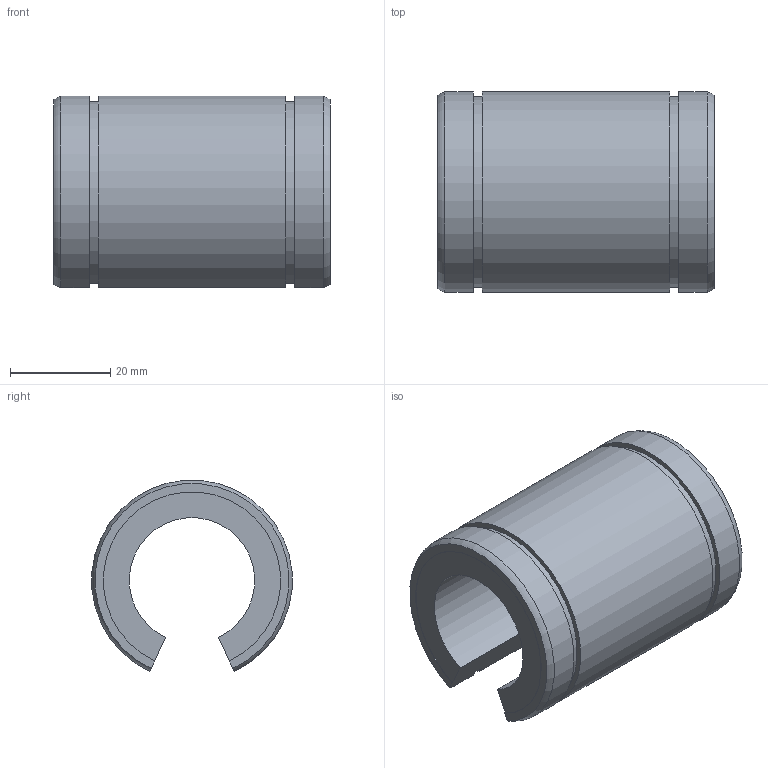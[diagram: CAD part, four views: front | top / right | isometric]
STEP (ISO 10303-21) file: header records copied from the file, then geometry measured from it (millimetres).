
FILE_DESCRIPTION((''),'2;1');
FILE_NAME('D:\製品 (図面)\カタログ用3D\リニアベアリング関連\STEP形式\L-OP\L25A-OP.stp','2010-06-04T09:33:39',('Tsuchiya'),(''),'Autodesk Inventor 10','Autodesk Inventor 10','');
FILE_SCHEMA(('AUTOMOTIVE_DESIGN { 1 0 10303 214 1 1 1 1 }'));
Length unit declared in the file: millimetre
Products named in the file (1): L25A-OP
Bounding box: 55 x 39.85 x 38.07 mm (x, y, z)
Volume: 35737.4 mm3; surface area: 12107.8 mm2
Topology: 1 solids, 1 shells, 20 faces, 54 edges, 36 vertices
Faces by surface type: plane 10, cylinder 8, torus 2
Entity records: 693 total; most frequent: CARTESIAN_POINT 153, DIRECTION 110, ORIENTED_EDGE 108, EDGE_CURVE 54, AXIS2_PLACEMENT_3D 39, VERTEX_POINT 36, VECTOR 32, LINE 32
